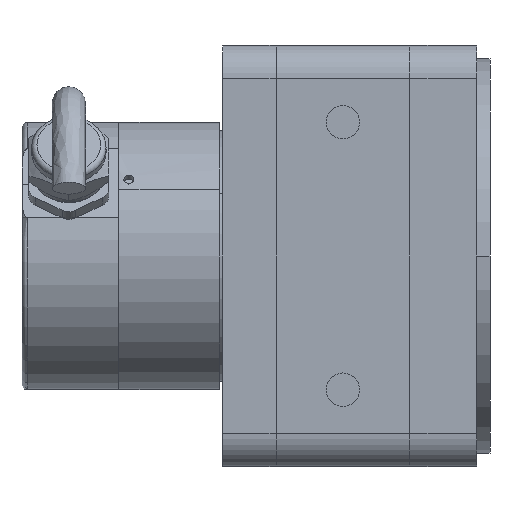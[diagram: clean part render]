
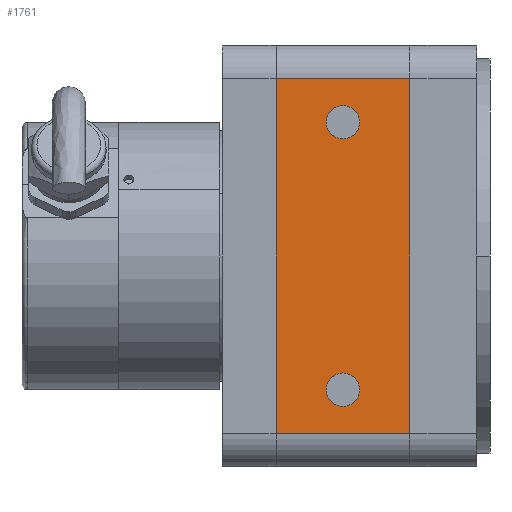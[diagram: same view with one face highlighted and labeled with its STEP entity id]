
A CAD part, left-side view. The second image highlights one B-rep face of the part: STEP entity #1761.
In plain terms, the highlighted planar face has unit normal (-1, 0, 0).
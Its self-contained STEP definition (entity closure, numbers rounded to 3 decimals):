
#615=FACE_BOUND('',#2706,.T.);
#616=FACE_BOUND('',#2707,.T.);
#617=FACE_BOUND('',#2708,.T.);
#1053=LINE('',#14010,#1352);
#1058=LINE('',#14039,#1357);
#1059=LINE('',#14041,#1358);
#1060=LINE('',#14043,#1359);
#1352=VECTOR('',#10053,1.);
#1357=VECTOR('',#10078,1.);
#1358=VECTOR('',#10081,1.);
#1359=VECTOR('',#10082,1.);
#1761=ADVANCED_FACE('',(#615,#616,#617),#1939,.T.);
#1939=PLANE('',#8165);
#2706=EDGE_LOOP('',(#4583,#4584,#4585,#4586));
#2707=EDGE_LOOP('',(#4587,#4588));
#2708=EDGE_LOOP('',(#4589,#4590));
#4583=ORIENTED_EDGE('',*,*,#6651,.F.);
#4584=ORIENTED_EDGE('',*,*,#6652,.T.);
#4585=ORIENTED_EDGE('',*,*,#6636,.T.);
#4586=ORIENTED_EDGE('',*,*,#6650,.F.);
#4587=ORIENTED_EDGE('',*,*,#6653,.F.);
#4588=ORIENTED_EDGE('',*,*,#6654,.F.);
#4589=ORIENTED_EDGE('',*,*,#6655,.F.);
#4590=ORIENTED_EDGE('',*,*,#6656,.F.);
#5613=VERTEX_POINT('',#14011);
#5614=VERTEX_POINT('',#14012);
#5626=VERTEX_POINT('',#14038);
#5627=VERTEX_POINT('',#14042);
#5628=VERTEX_POINT('',#14045);
#5629=VERTEX_POINT('',#14046);
#5630=VERTEX_POINT('',#14049);
#5631=VERTEX_POINT('',#14050);
#6636=EDGE_CURVE('',#5613,#5614,#1053,.T.);
#6650=EDGE_CURVE('',#5626,#5614,#1058,.T.);
#6651=EDGE_CURVE('',#5627,#5626,#1059,.T.);
#6652=EDGE_CURVE('',#5627,#5613,#1060,.T.);
#6653=EDGE_CURVE('',#5628,#5629,#7305,.T.);
#6654=EDGE_CURVE('',#5629,#5628,#7306,.T.);
#6655=EDGE_CURVE('',#5630,#5631,#7307,.T.);
#6656=EDGE_CURVE('',#5631,#5630,#7308,.T.);
#7305=CIRCLE('',#8161,2.5);
#7306=CIRCLE('',#8162,2.5);
#7307=CIRCLE('',#8163,2.5);
#7308=CIRCLE('',#8164,2.5);
#8161=AXIS2_PLACEMENT_3D('',#14044,#10083,#10084);
#8162=AXIS2_PLACEMENT_3D('',#14047,#10085,#10086);
#8163=AXIS2_PLACEMENT_3D('',#14048,#10087,#10088);
#8164=AXIS2_PLACEMENT_3D('',#14051,#10089,#10090);
#8165=AXIS2_PLACEMENT_3D('',#14052,#10091,#10092);
#10053=DIRECTION('',(0.,0.,-1.));
#10078=DIRECTION('',(0.,1.,0.));
#10081=DIRECTION('',(0.,0.,-1.));
#10082=DIRECTION('',(0.,1.,0.));
#10083=DIRECTION('',(-1.,0.,0.));
#10084=DIRECTION('',(0.,0.,-1.));
#10085=DIRECTION('',(-1.,0.,0.));
#10086=DIRECTION('',(0.,0.,1.));
#10087=DIRECTION('',(-1.,0.,0.));
#10088=DIRECTION('',(0.,0.,-1.));
#10089=DIRECTION('',(-1.,0.,0.));
#10090=DIRECTION('',(0.,0.,1.));
#10091=DIRECTION('',(-1.,0.,0.));
#10092=DIRECTION('',(0.,0.,1.));
#14010=CARTESIAN_POINT('',(-202.04,134.137,88.611));
#14011=CARTESIAN_POINT('',(-202.04,134.137,88.611));
#14012=CARTESIAN_POINT('',(-202.04,134.137,35.611));
#14038=CARTESIAN_POINT('',(-202.04,114.137,35.611));
#14039=CARTESIAN_POINT('',(-202.04,114.137,35.611));
#14041=CARTESIAN_POINT('',(-202.04,114.137,88.611));
#14042=CARTESIAN_POINT('',(-202.04,114.137,88.611));
#14043=CARTESIAN_POINT('',(-202.04,114.137,88.611));
#14044=CARTESIAN_POINT('',(-202.04,124.137,42.111));
#14045=CARTESIAN_POINT('',(-202.04,124.137,39.611));
#14046=CARTESIAN_POINT('',(-202.04,124.137,44.611));
#14047=CARTESIAN_POINT('',(-202.04,124.137,42.111));
#14048=CARTESIAN_POINT('',(-202.04,124.137,82.111));
#14049=CARTESIAN_POINT('',(-202.04,124.137,79.611));
#14050=CARTESIAN_POINT('',(-202.04,124.137,84.611));
#14051=CARTESIAN_POINT('',(-202.04,124.137,82.111));
#14052=CARTESIAN_POINT('',(-202.04,134.137,93.611));
